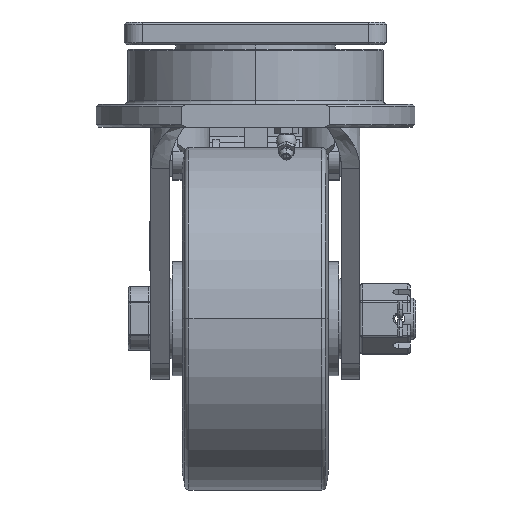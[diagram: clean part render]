
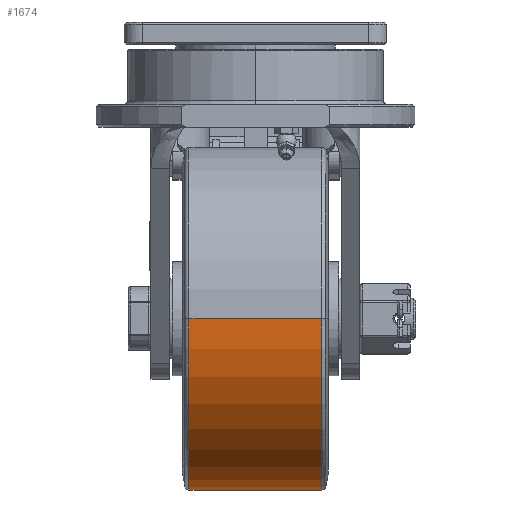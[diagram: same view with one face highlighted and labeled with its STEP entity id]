
A CAD part, left-side view. The second image highlights one B-rep face of the part: STEP entity #1674.
In plain terms, the highlighted cylindrical face has radius 75 mm (diameter 150 mm), a partial arc.
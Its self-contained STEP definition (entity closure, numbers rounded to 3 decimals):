
#381=CYLINDRICAL_SURFACE('',#16144,75.);
#842=FACE_OUTER_BOUND('',#3837,.T.);
#1674=ADVANCED_FACE('',(#842),#381,.T.);
#3837=EDGE_LOOP('',(#6922,#6923,#6924,#6925));
#4862=CIRCLE('',#16136,75.);
#4866=CIRCLE('',#16143,75.);
#6922=ORIENTED_EDGE('',*,*,#12120,.T.);
#6923=ORIENTED_EDGE('',*,*,#12124,.F.);
#6924=ORIENTED_EDGE('',*,*,#12126,.T.);
#6925=ORIENTED_EDGE('',*,*,#12125,.T.);
#10363=VERTEX_POINT('',#26298);
#10364=VERTEX_POINT('',#26300);
#10365=VERTEX_POINT('',#26306);
#10366=VERTEX_POINT('',#26307);
#12120=EDGE_CURVE('',#10364,#10363,#4862,.T.);
#12124=EDGE_CURVE('',#10366,#10363,#13730,.T.);
#12125=EDGE_CURVE('',#10365,#10364,#13731,.T.);
#12126=EDGE_CURVE('',#10366,#10365,#4866,.T.);
#13730=LINE('',#26308,#14777);
#13731=LINE('',#26309,#14778);
#14777=VECTOR('',#18662,1.);
#14778=VECTOR('',#18663,1.);
#16136=AXIS2_PLACEMENT_3D('',#26299,#18650,#18651);
#16143=AXIS2_PLACEMENT_3D('',#26311,#18666,#18667);
#16144=AXIS2_PLACEMENT_3D('',#26312,#18668,#18669);
#18650=DIRECTION('',(0.,-1.,0.));
#18651=DIRECTION('',(-1.,0.,0.));
#18662=DIRECTION('',(0.,1.,0.));
#18663=DIRECTION('',(0.,1.,0.));
#18666=DIRECTION('',(0.,1.,0.));
#18667=DIRECTION('',(1.,0.,0.));
#18668=DIRECTION('',(0.,1.,0.));
#18669=DIRECTION('',(1.,0.,0.));
#26298=CARTESIAN_POINT('',(135.,29.114,-130.));
#26299=CARTESIAN_POINT('',(60.,29.114,-130.));
#26300=CARTESIAN_POINT('',(-15.,29.114,-130.));
#26306=CARTESIAN_POINT('',(-15.,-29.114,-130.));
#26307=CARTESIAN_POINT('',(135.,-29.114,-130.));
#26308=CARTESIAN_POINT('',(135.,-29.114,-130.));
#26309=CARTESIAN_POINT('',(-15.,-29.114,-130.));
#26311=CARTESIAN_POINT('',(60.,-29.114,-130.));
#26312=CARTESIAN_POINT('',(60.,-35.2,-130.));
